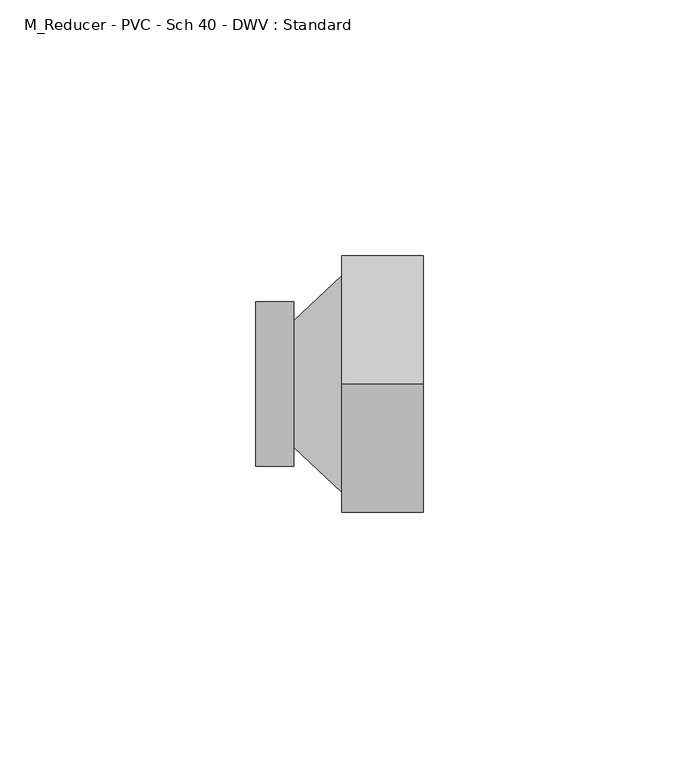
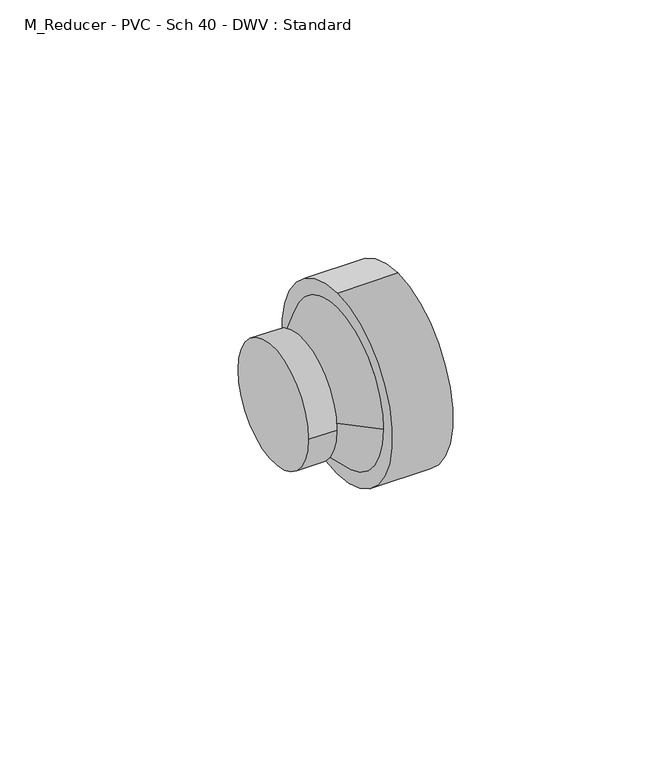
"""IFC4 building model written with IfcOpenShell, lengths in millimetres: pipe fitting geometry, M_Reducer - PVC - Sch 40 - DWV : Standard."""

from ifc_helpers import new_model, si_unit, frame, origin, place, context, project, spatial, polyline, circle_curve, source, transform, mapped, element, save
from ifc_brep_helpers import plane_surface, cylinder_surface, revolved_surface, advanced_brep


def m_reducer_pvc_sch_40_dwv_standard_e0017546(model_context):
    return source(origin(), model_context, "Body", "AdvancedBrep", [
        advanced_brep(
        [(0.0, -16.0871094, 0.0), (0.0, 16.0871094, 0.0), (7.5, -16.0871094, 0.0), (7.5, 16.0871094, 0.0), (7.5, 12.3640625, 0.0), (7.5, -12.3640625, 0.0), (16.8460938, 21.2040625, 0.0), (16.8460937, -21.2040625, 0.0), (16.8460938, 0.0, 25.2671094), (16.8460938, 0.0, -25.2671094), (32.8460938, 0.0, 25.2671094), (32.8460938, 0.0, -25.2671094)],
        [
            (0, 1, circle_curve(frame((0.0, 0.0, 0.0), z_axis=(-1.0, 0.0, 0.0), x_axis=(0.0, 1.0, 0.0)), 16.0871094)),
            (1, 0, circle_curve(frame((0.0, 0.0, 0.0), z_axis=(-1.0, 0.0, 0.0), x_axis=(0.0, 1.0, 0.0)), 16.0871094)),
            (2, 3, circle_curve(frame((7.5, 0.0, 0.0), z_axis=(1.0, 0.0, 0.0), x_axis=(0.0, 1.0, 0.0)), 16.0871094)),
            (3, 2, circle_curve(frame((7.5, 0.0, 0.0), z_axis=(1.0, 0.0, 0.0), x_axis=(0.0, 1.0, 0.0)), 16.0871094)),
            (4, 5, circle_curve(frame((7.5, 0.0, 0.0), z_axis=(-1.0, 0.0, 0.0), x_axis=(0.0, -1.0, 0.0)), 12.3640625)),
            (5, 4, circle_curve(frame((7.5, 0.0, 0.0), z_axis=(-1.0, 0.0, 0.0), x_axis=(0.0, 1.0, 0.0)), 12.3640625)),
            (0, 2),
            (3, 1),
            (4, 6),
            (6, 7, circle_curve(frame((16.8460938, 0.0, 0.0), z_axis=(-1.0, 0.0, 0.0), x_axis=(0.0, -1.0, 0.0)), 21.2040625)),
            (7, 5),
            (7, 6, circle_curve(frame((16.8460938, 0.0, 0.0), z_axis=(-1.0, 0.0, 0.0), x_axis=(0.0, 1.0, 0.0)), 21.2040625)),
            (8, 9, circle_curve(frame((16.8460938, 0.0, 0.0), z_axis=(-1.0, 0.0, 0.0), x_axis=(0.0, 0.0, -1.0)), 25.2671094)),
            (9, 8, circle_curve(frame((16.8460938, 0.0, 0.0), z_axis=(-1.0, 0.0, 0.0), x_axis=(0.0, 0.0, -1.0)), 25.2671094)),
            (10, 11, circle_curve(frame((32.8460938, 0.0, 0.0), z_axis=(1.0, 0.0, 0.0), x_axis=(0.0, 0.0, -1.0)), 25.2671094)),
            (11, 10, circle_curve(frame((32.8460938, 0.0, 0.0), z_axis=(1.0, 0.0, 0.0), x_axis=(0.0, 0.0, -1.0)), 25.2671094)),
            (8, 10),
            (11, 9),
        ],
        [
            plane_surface(frame((0.0, 0.0, 0.0), z_axis=(-1.0, 0.0, 0.0), x_axis=(0.0, 0.0, 1.0))),
            plane_surface(frame((7.5, 0.0, 0.0), z_axis=(1.0, 0.0, 0.0), x_axis=(0.0, 0.0, 1.0))),
            cylinder_surface(frame((0.0, 0.0, 0.0), z_axis=(-1.0, 0.0, 0.0), x_axis=(0.0, 1.0, 0.0)), 16.0871094),
            revolved_surface(polyline([(7.500000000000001, 12.364062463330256, 0.0), (16.8460938, 21.2040625, 0.0)]), (-5.5719103, 0.0, 0.0), (1.0, 0.0, 0.0)),
            plane_surface(frame((16.8460938, 0.0, 0.0), z_axis=(-1.0, 0.0, 0.0), x_axis=(0.0, 1.0, 0.0))),
            plane_surface(frame((32.8460938, 0.0, 0.0), z_axis=(1.0, 0.0, 0.0), x_axis=(0.0, 1.0, 0.0))),
            cylinder_surface(frame((16.8460938, 0.0, 0.0), z_axis=(-1.0, 0.0, 0.0), x_axis=(0.0, 0.0, -1.0)), 25.2671094),
        ],
        [
            (0, [[1, 2]]),
            (1, [[3, 4], [5, 6]]),
            (2, [[-1, 7, -4, 8]]),
            (2, [[-2, -8, -3, -7]]),
            (3, [[9, 10, 11, -5]]),
            (3, [[-9, -6, -11, 12]]),
            (4, [[13, 14], [-10, -12]]),
            (5, [[15, 16]]),
            (6, [[-13, 17, -16, 18]]),
            (6, [[-14, -18, -15, -17]]),
        ],
    ),
    ])


if __name__ == "__main__":
    model = new_model("IFC4")
    model_context = context("Model", 3, world=origin())
    ifc_project = project(units=[si_unit("LENGTHUNIT", "METRE", prefix="MILLI")], contexts=[model_context])
    site = spatial("IfcSite", under=ifc_project)
    building = spatial("IfcBuilding", under=site)
    placement = place(None, origin())
    m_reducer_pvc_sch_40_dwv_standard_shape = m_reducer_pvc_sch_40_dwv_standard_e0017546(model_context)
    element("IfcPipeFitting", 1, ObjectType="M_Reducer - PVC - Sch 40 - DWV : Standard", at=placement, inside=building, context=model_context, shape_type="MappedRepresentation", body=[
        mapped(m_reducer_pvc_sch_40_dwv_standard_shape, transform((0.0, 0.0, 0.0), x_axis=(1.0, 0.0, 0.0), y_axis=(0.0, 1.0, 0.0), z_axis=(0.0, 0.0, 1.0))),
    ])
    save(model, "model.ifc")
